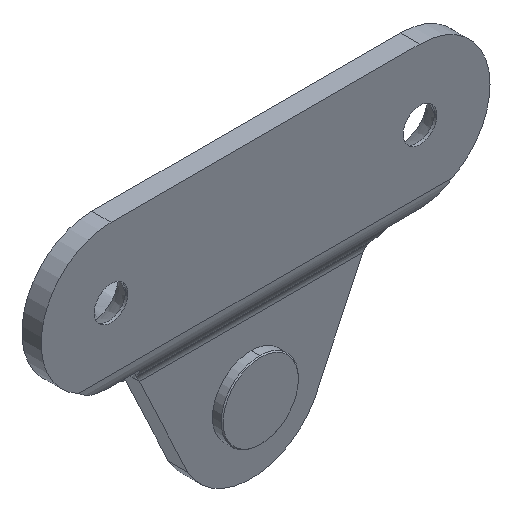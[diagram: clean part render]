
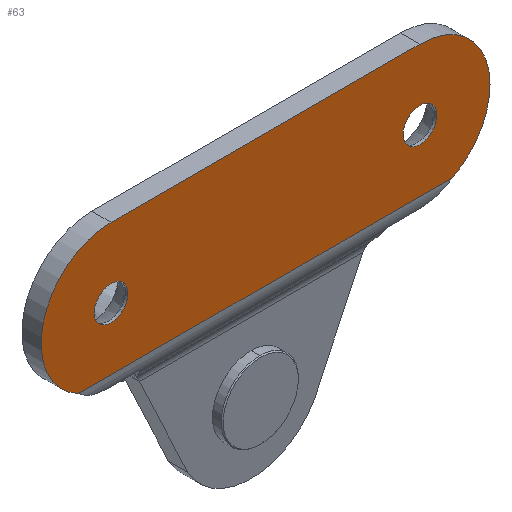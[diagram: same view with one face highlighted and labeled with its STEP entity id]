
A CAD part, isometric view. The second image highlights one B-rep face of the part: STEP entity #63.
In plain terms, the highlighted planar face has unit normal (0, -1, 0).
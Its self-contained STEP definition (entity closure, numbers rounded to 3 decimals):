
#63 = ADVANCED_FACE ( 'NONE', ( #151, #1274, #1640 ), #540, .F. ) ;
#76 = ORIENTED_EDGE ( 'NONE', *, *, #1383, .F. ) ;
#92 = CARTESIAN_POINT ( 'NONE',  ( -9.25, 21.665, -13.98 ) ) ;
#97 = CARTESIAN_POINT ( 'NONE',  ( -5.75, 21.665, -13.98 ) ) ;
#106 = VERTEX_POINT ( 'NONE', #489 ) ;
#122 = CARTESIAN_POINT ( 'NONE',  ( 24.5, 21.665, -13.98 ) ) ;
#150 = CARTESIAN_POINT ( 'NONE',  ( 24.5, 21.665, -13.98 ) ) ;
#151 = FACE_OUTER_BOUND ( 'NONE', #595, .T. ) ;
#162 = AXIS2_PLACEMENT_3D ( 'NONE', #122, #1407, #397 ) ;
#200 = AXIS2_PLACEMENT_3D ( 'NONE', #539, #1553, #798 ) ;
#213 = CARTESIAN_POINT ( 'NONE',  ( 26.25, 21.665, -13.98 ) ) ;
#226 = CIRCLE ( 'NONE', #1275, 7.25 ) ;
#231 = DIRECTION ( 'NONE',  ( 1., 0., 0. ) ) ;
#245 = VERTEX_POINT ( 'NONE', #92 ) ;
#259 = CARTESIAN_POINT ( 'NONE',  ( 8.5, 21.665, -30.76 ) ) ;
#265 = DIRECTION ( 'NONE',  ( 1., 0., 0. ) ) ;
#283 = CIRCLE ( 'NONE', #200, 7.25 ) ;
#298 = DIRECTION ( 'NONE',  ( 1., 0., 0. ) ) ;
#301 = AXIS2_PLACEMENT_3D ( 'NONE', #1462, #711, #298 ) ;
#352 = DIRECTION ( 'NONE',  ( 0., -1., 0. ) ) ;
#371 = DIRECTION ( 'NONE',  ( 0., -1., 0. ) ) ;
#380 = LINE ( 'NONE', #1091, #596 ) ;
#397 = DIRECTION ( 'NONE',  ( 1., 0., 0. ) ) ;
#403 = VERTEX_POINT ( 'NONE', #1389 ) ;
#432 = DIRECTION ( 'NONE',  ( -1., 0., 0. ) ) ;
#437 = EDGE_CURVE ( 'NONE', #1413, #245, #946, .T. ) ;
#487 = CARTESIAN_POINT ( 'NONE',  ( -7.5, 21.665, -13.98 ) ) ;
#489 = CARTESIAN_POINT ( 'NONE',  ( 22.75, 21.665, -13.98 ) ) ;
#515 = AXIS2_PLACEMENT_3D ( 'NONE', #259, #1060, #265 ) ;
#539 = CARTESIAN_POINT ( 'NONE',  ( 24.5, 21.665, -13.98 ) ) ;
#540 = PLANE ( 'NONE',  #515 ) ;
#571 = DIRECTION ( 'NONE',  ( 1., 0., 0. ) ) ;
#581 = CIRCLE ( 'NONE', #301, 7.25 ) ;
#595 = EDGE_LOOP ( 'NONE', ( #1082, #1455, #1595, #849, #1074 ) ) ;
#596 = VECTOR ( 'NONE', #432, 1000. ) ;
#661 = EDGE_CURVE ( 'NONE', #403, #949, #283, .T. ) ;
#696 = DIRECTION ( 'NONE',  ( 1., 0., 0. ) ) ;
#711 = DIRECTION ( 'NONE',  ( 0., 1., 0. ) ) ;
#783 = VERTEX_POINT ( 'NONE', #1173 ) ;
#798 = DIRECTION ( 'NONE',  ( 1., 0., 0. ) ) ;
#813 = CARTESIAN_POINT ( 'NONE',  ( 8.5, 21.665, -6.73 ) ) ;
#827 = CARTESIAN_POINT ( 'NONE',  ( 27.858, 21.665, -20.405 ) ) ;
#839 = CARTESIAN_POINT ( 'NONE',  ( -7.5, 21.665, -6.73 ) ) ;
#849 = ORIENTED_EDGE ( 'NONE', *, *, #661, .F. ) ;
#857 = AXIS2_PLACEMENT_3D ( 'NONE', #1422, #1310, #1170 ) ;
#867 = EDGE_CURVE ( 'NONE', #1240, #882, #581, .T. ) ;
#882 = VERTEX_POINT ( 'NONE', #839 ) ;
#893 = ORIENTED_EDGE ( 'NONE', *, *, #1487, .F. ) ;
#902 = EDGE_CURVE ( 'NONE', #882, #783, #1552, .T. ) ;
#916 = EDGE_CURVE ( 'NONE', #783, #403, #226, .T. ) ;
#920 = CIRCLE ( 'NONE', #857, 1.75 ) ;
#925 = EDGE_LOOP ( 'NONE', ( #893, #1025 ) ) ;
#946 = CIRCLE ( 'NONE', #1360, 1.75 ) ;
#949 = VERTEX_POINT ( 'NONE', #827 ) ;
#995 = CIRCLE ( 'NONE', #1237, 1.75 ) ;
#1025 = ORIENTED_EDGE ( 'NONE', *, *, #1466, .F. ) ;
#1060 = DIRECTION ( 'NONE',  ( 0., 1., 0. ) ) ;
#1074 = ORIENTED_EDGE ( 'NONE', *, *, #916, .F. ) ;
#1082 = ORIENTED_EDGE ( 'NONE', *, *, #902, .F. ) ;
#1091 = CARTESIAN_POINT ( 'NONE',  ( 8.5, 21.665, -20.405 ) ) ;
#1104 = EDGE_CURVE ( 'NONE', #949, #1240, #380, .T. ) ;
#1170 = DIRECTION ( 'NONE',  ( 1., 0., 0. ) ) ;
#1173 = CARTESIAN_POINT ( 'NONE',  ( 24.5, 21.665, -6.73 ) ) ;
#1222 = CIRCLE ( 'NONE', #162, 1.75 ) ;
#1226 = VECTOR ( 'NONE', #571, 1000. ) ;
#1237 = AXIS2_PLACEMENT_3D ( 'NONE', #487, #352, #1287 ) ;
#1240 = VERTEX_POINT ( 'NONE', #1262 ) ;
#1262 = CARTESIAN_POINT ( 'NONE',  ( -10.858, 21.665, -20.405 ) ) ;
#1274 = FACE_BOUND ( 'NONE', #925, .T. ) ;
#1275 = AXIS2_PLACEMENT_3D ( 'NONE', #150, #1586, #696 ) ;
#1287 = DIRECTION ( 'NONE',  ( 1., 0., 0. ) ) ;
#1297 = CARTESIAN_POINT ( 'NONE',  ( -7.5, 21.665, -13.98 ) ) ;
#1310 = DIRECTION ( 'NONE',  ( 0., -1., 0. ) ) ;
#1360 = AXIS2_PLACEMENT_3D ( 'NONE', #1297, #371, #231 ) ;
#1383 = EDGE_CURVE ( 'NONE', #245, #1413, #995, .T. ) ;
#1389 = CARTESIAN_POINT ( 'NONE',  ( 31.75, 21.665, -13.98 ) ) ;
#1407 = DIRECTION ( 'NONE',  ( 0., -1., 0. ) ) ;
#1413 = VERTEX_POINT ( 'NONE', #97 ) ;
#1417 = ORIENTED_EDGE ( 'NONE', *, *, #437, .F. ) ;
#1422 = CARTESIAN_POINT ( 'NONE',  ( 24.5, 21.665, -13.98 ) ) ;
#1446 = VERTEX_POINT ( 'NONE', #213 ) ;
#1455 = ORIENTED_EDGE ( 'NONE', *, *, #867, .F. ) ;
#1462 = CARTESIAN_POINT ( 'NONE',  ( -7.5, 21.665, -13.98 ) ) ;
#1466 = EDGE_CURVE ( 'NONE', #106, #1446, #920, .T. ) ;
#1483 = EDGE_LOOP ( 'NONE', ( #1417, #76 ) ) ;
#1487 = EDGE_CURVE ( 'NONE', #1446, #106, #1222, .T. ) ;
#1552 = LINE ( 'NONE', #813, #1226 ) ;
#1553 = DIRECTION ( 'NONE',  ( 0., 1., 0. ) ) ;
#1586 = DIRECTION ( 'NONE',  ( 0., 1., 0. ) ) ;
#1595 = ORIENTED_EDGE ( 'NONE', *, *, #1104, .F. ) ;
#1640 = FACE_BOUND ( 'NONE', #1483, .T. ) ;
